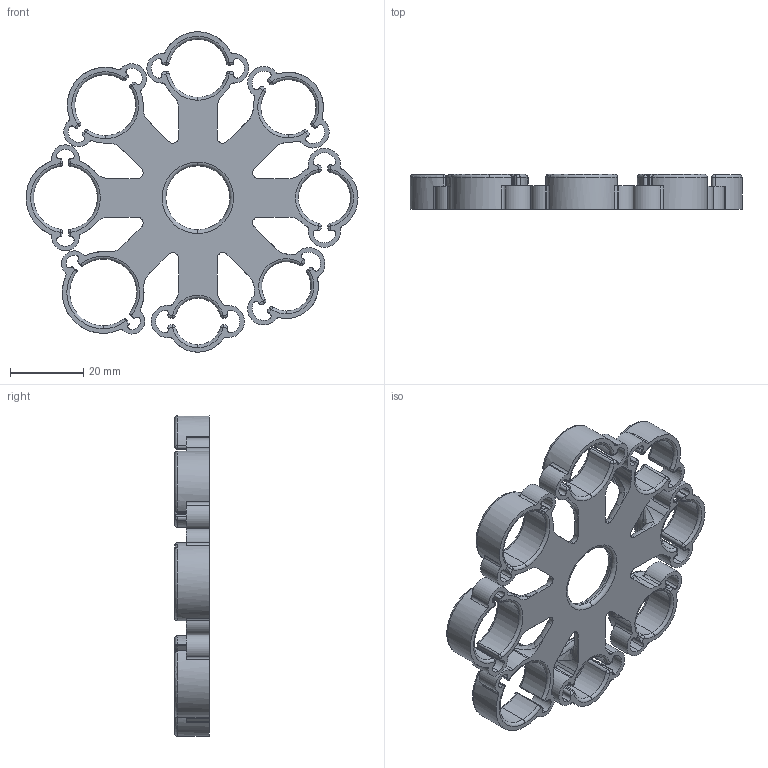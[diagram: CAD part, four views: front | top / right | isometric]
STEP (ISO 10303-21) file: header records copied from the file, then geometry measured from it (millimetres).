
FILE_DESCRIPTION (( 'STEP AP203' ), '1' );
FILE_NAME ('sizes.STEP', '2018-02-19T16:25:34', ( '' ), ( '' ), 'SwSTEP 2.0', 'SolidWorks 2015', '' );
FILE_SCHEMA (( 'CONFIG_CONTROL_DESIGN' ));
Length unit declared in the file: inch
Products named in the file (1): sizes
Bounding box: 90.68 x 9.53 x 87.5 mm (x, y, z)
Volume: 13974.4 mm3; surface area: 15176.4 mm2
Topology: 1 solids, 1 shells, 773 faces, 2044 edges, 1181 vertices
Faces by surface type: cylinder 358, bspline 145, plane 133, torus 89, sphere 48
Entity records: 29517 total; most frequent: CARTESIAN_POINT 11423, ORIENTED_EDGE 3896, DIRECTION 3776, EDGE_CURVE 1948, AXIS2_PLACEMENT_3D 1530, VERTEX_POINT 1181, CIRCLE 901, EDGE_LOOP 795
